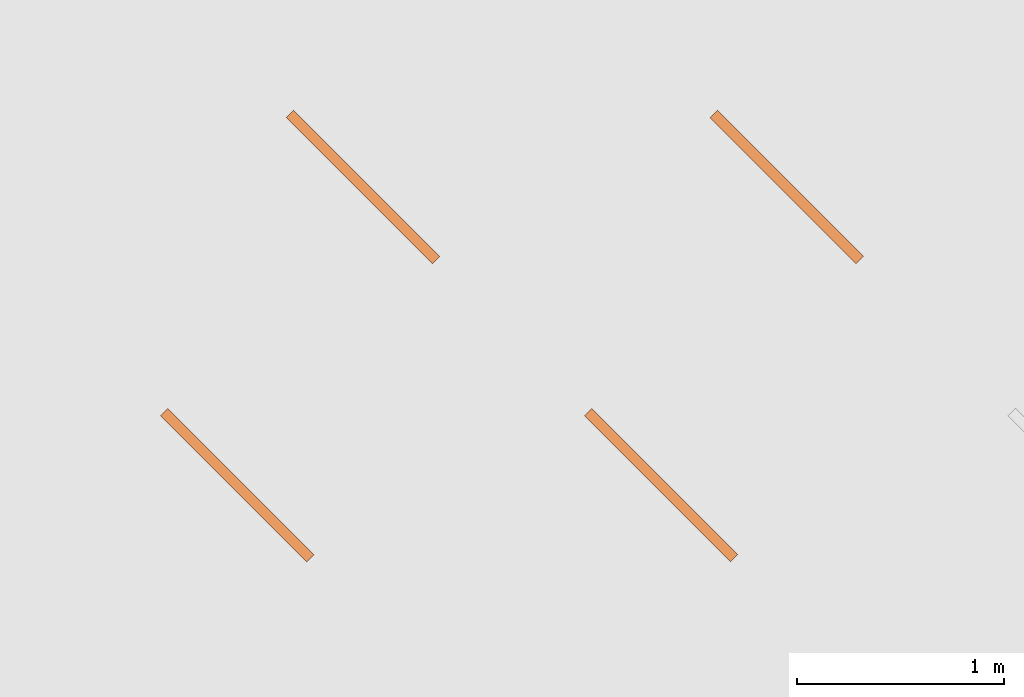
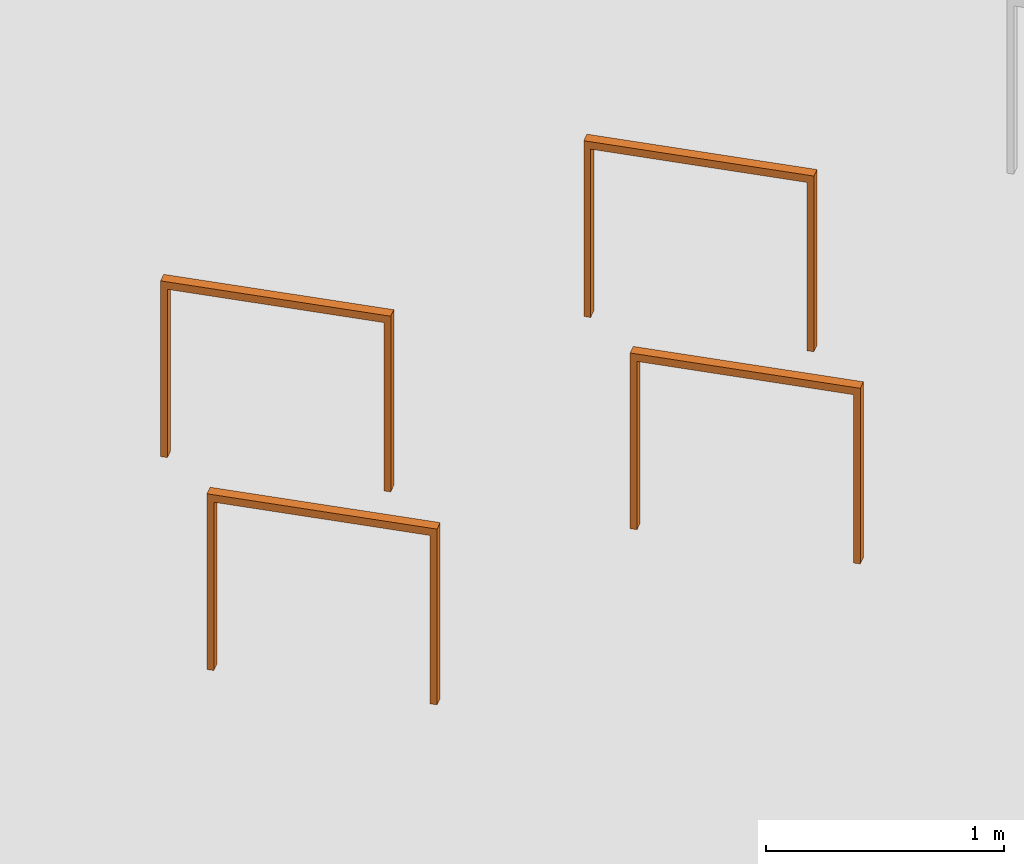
# One storey, part 222 of 246: 4 proxies.
"""IFC2X3 building model written with IfcOpenShell, lengths in millimetres."""

from ifc_helpers import new_model, entity, si_unit, converted_unit, derived_unit, money_unit, direction, frame, origin_with_axes, place, context, subcontext, project, spatial, faceted_brep, material, type_object, element, save


model = new_model("IFC2X3")

# Units and contexts
model_context = context("Model", 3, precision=0.01, world=origin_with_axes(), true_north=direction((0.0, 1.0)))
body_context = subcontext(model_context, "Body", "Model", "MODEL_VIEW")
ifc_project = project(units=[si_unit("LENGTHUNIT", "METRE", prefix="MILLI"), si_unit("AREAUNIT", "SQUARE_METRE"), si_unit("VOLUMEUNIT", "CUBIC_METRE"), converted_unit("PLANEANGLEUNIT", "DEGREE", entity("IfcPlaneAngleMeasure", 0.0174532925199), si_unit("PLANEANGLEUNIT", "RADIAN"), dimensions=[0, 0, 0, 0, 0, 0, 0]), si_unit("SOLIDANGLEUNIT", "STERADIAN"), money_unit("EUR"), converted_unit("TIMEUNIT", "Year", entity("IfcTimeMeasure", 31556926.0), si_unit("TIMEUNIT", "SECOND"), dimensions=[0, 0, 1, 0, 0, 0, 0]), si_unit("MASSUNIT", "GRAM", prefix="KILO"), si_unit("THERMODYNAMICTEMPERATUREUNIT", "DEGREE_CELSIUS"), si_unit("LUMINOUSINTENSITYUNIT", "LUMEN"), si_unit("ENERGYUNIT", "JOULE", prefix="MEGA"), derived_unit("THERMALCONDUCTANCEUNIT", [(si_unit("POWERUNIT", "WATT"), 1), (si_unit("LENGTHUNIT", "METRE"), -1), (si_unit("THERMODYNAMICTEMPERATUREUNIT", "KELVIN"), -1)]), derived_unit("SPECIFICHEATCAPACITYUNIT", [(si_unit("ENERGYUNIT", "JOULE"), 1), (si_unit("MASSUNIT", "GRAM", prefix="KILO"), -1), (si_unit("THERMODYNAMICTEMPERATUREUNIT", "KELVIN"), -1)]), derived_unit("MASSDENSITYUNIT", [(si_unit("MASSUNIT", "GRAM", prefix="KILO"), 1), (si_unit("VOLUMEUNIT", "CUBIC_METRE"), -1)])], contexts=[model_context])

# Site, building, storey
site_placement = place(None, origin_with_axes())
site = spatial("IfcSite", under=ifc_project, at=site_placement, Name="L.Koidula tn 11b", CompositionType="ELEMENT")
building_placement = place(site_placement, origin_with_axes())
building = spatial("IfcBuilding", under=site, at=building_placement, Name="Rakvere Riigigümnaasium", CompositionType="ELEMENT")
storey_placement = place(building_placement, origin_with_axes())
storey = spatial("IfcBuildingStorey", under=building, at=storey_placement, Name="1.korrus 0,00", CompositionType="ELEMENT", Elevation=0.0)

# Proxies
ifc_material = material(Name="teras_must")
building_element_proxy_type = type_object("IfcBuildingElementProxyType", Name="Rattahoidja 1000 x 900", PredefinedType="NOTDEFINED")
for number, where, z_axis, x_axis, name in (
    (1, (16127.6142057, 75149.883562, -15.1747792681), (0.0, 0.0, 1.0), (-0.707106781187, -0.707106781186, 0.0), "Ratas-02"),
    (2, (16735.7617509, 76592.3456823, -12.176991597), (0.0, 0.0, 1.0), (-0.707106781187, -0.707106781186, 0.0), "Ratas-01"),
    (3, (18786.3714164, 76592.3456823, -12.176991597), (0.0, 0.0, 1.0), (-0.707106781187, -0.707106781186, 0.0), "Ratas-01"),
    (4, (18178.2238712, 75149.883562, -11.7847502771), (0.0, 0.0, 1.0), (-0.707106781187, -0.707106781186, 0.0), "Ratas-01"),
):
    element("IfcBuildingElementProxy", number, at=place(storey_placement, frame(where, z_axis=z_axis, x_axis=x_axis)), inside=storey, type_object=building_element_proxy_type, material=ifc_material, Name=name, context=body_context, shape_type="Brep", body=[
        faceted_brep([(0.0, 0.0, 0.0), (50.0, 0.0, 0.0), (50.0, -30.0, 0.0), (0.0, -30.0, 0.0), (0.0, 0.0, 900.0), (50.0, 0.0, 900.0), (50.0, -1000.0, 900.0), (50.0, -1000.0, 0.0), (50.0, -970.0, 0.0), (50.0, -970.0, 862.0), (50.0, -30.0, 862.0), (0.0, -30.0, 862.0), (0.0, -970.0, 862.0), (0.0, -970.0, 0.0), (0.0, -1000.0, 0.0), (0.0, -1000.0, 900.0)], [[[0, 1, 2, 3]], [[4, 5, 1, 0]], [[2, 1, 5, 6, 7, 8, 9, 10]], [[3, 2, 10, 11]], [[4, 0, 3, 11, 12, 13, 14, 15]], [[15, 6, 5, 4]], [[14, 7, 6, 15]], [[13, 8, 7, 14]], [[12, 9, 8, 13]], [[11, 10, 9, 12]]]),
    ])

save(model, "model.ifc")
